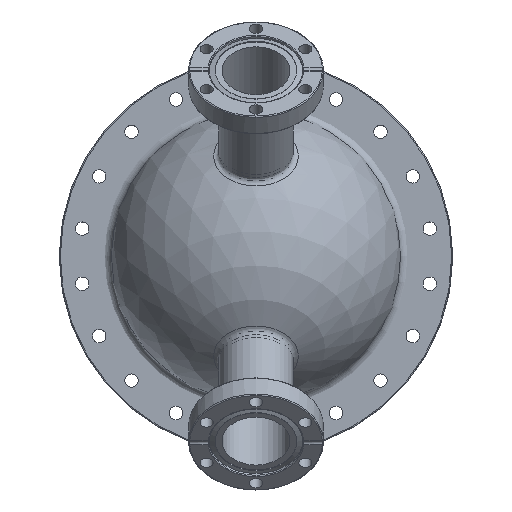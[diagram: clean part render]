
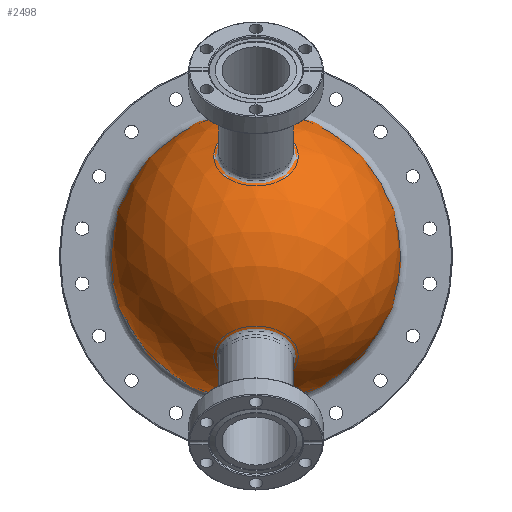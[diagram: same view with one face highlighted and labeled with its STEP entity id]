
A CAD part, top view. The second image highlights one B-rep face of the part: STEP entity #2498.
In plain terms, the highlighted spherical face has radius 76.2 mm.
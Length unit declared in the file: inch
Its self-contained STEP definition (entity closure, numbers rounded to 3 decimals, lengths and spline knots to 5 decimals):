
#63=SPHERICAL_SURFACE('',#2848,3.);
#139=FACE_BOUND('',#596,.T.);
#365=FACE_OUTER_BOUND('',#595,.T.);
#595=EDGE_LOOP('',(#2195,#2196,#2197,#2198,#2199));
#596=EDGE_LOOP('',(#2200));
#992=CIRCLE('',#2849,0.75);
#993=CIRCLE('',#2850,3.);
#994=CIRCLE('',#2851,3.);
#995=CIRCLE('',#2852,0.75);
#996=CIRCLE('',#2853,0.75);
#1204=VERTEX_POINT('',#5508);
#1205=VERTEX_POINT('',#5509);
#1206=VERTEX_POINT('',#5511);
#1207=VERTEX_POINT('',#5515);
#1541=EDGE_CURVE('',#1204,#1205,#992,.T.);
#1542=EDGE_CURVE('',#1205,#1206,#993,.T.);
#1543=EDGE_CURVE('',#1206,#1206,#994,.T.);
#1544=EDGE_CURVE('',#1205,#1204,#995,.T.);
#1545=EDGE_CURVE('',#1207,#1207,#996,.T.);
#2195=ORIENTED_EDGE('',*,*,#1541,.T.);
#2196=ORIENTED_EDGE('',*,*,#1542,.T.);
#2197=ORIENTED_EDGE('',*,*,#1543,.F.);
#2198=ORIENTED_EDGE('',*,*,#1542,.F.);
#2199=ORIENTED_EDGE('',*,*,#1544,.T.);
#2200=ORIENTED_EDGE('',*,*,#1545,.T.);
#2498=ADVANCED_FACE('',(#365,#139),#63,.T.);
#2848=AXIS2_PLACEMENT_3D('',#5507,#3621,#3622);
#2849=AXIS2_PLACEMENT_3D('',#5510,#3623,#3624);
#2850=AXIS2_PLACEMENT_3D('',#5512,#3625,#3626);
#2851=AXIS2_PLACEMENT_3D('',#5513,#3627,#3628);
#2852=AXIS2_PLACEMENT_3D('',#5514,#3629,#3630);
#2853=AXIS2_PLACEMENT_3D('',#5516,#3631,#3632);
#3621=DIRECTION('center_axis',(0.,-0.707,
0.707));
#3622=DIRECTION('ref_axis',(1.,0.,0.));
#3623=DIRECTION('center_axis',(0.,0.707,-0.707));
#3624=DIRECTION('ref_axis',(-1.,0.,0.));
#3625=DIRECTION('center_axis',(0.,-0.707,
-0.707));
#3626=DIRECTION('ref_axis',(-1.,0.,0.));
#3627=DIRECTION('center_axis',(0.,0.,
-1.));
#3628=DIRECTION('ref_axis',(0.,-1.,0.));
#3629=DIRECTION('center_axis',(0.,0.707,-0.707));
#3630=DIRECTION('ref_axis',(-1.,0.,0.));
#3631=DIRECTION('center_axis',(0.,-0.707,
-0.707));
#3632=DIRECTION('ref_axis',(-1.,0.,0.));
#5507=CARTESIAN_POINT('Origin',(0.,-4.71,1.01067));
#5508=CARTESIAN_POINT('',(0.75,-6.76396,3.06463));
#5509=CARTESIAN_POINT('',(-0.75,-6.76396,3.06463));
#5510=CARTESIAN_POINT('Origin',(0.,-6.76396,
3.06463));
#5511=CARTESIAN_POINT('',(-2.99999,-4.70467,1.00533));
#5512=CARTESIAN_POINT('Origin',(0.,-4.71,1.01067));
#5513=CARTESIAN_POINT('Origin',(0.,-4.71,1.00533));
#5514=CARTESIAN_POINT('Origin',(0.,-6.76396,
3.06463));
#5515=CARTESIAN_POINT('',(0.75,-2.65604,3.06463));
#5516=CARTESIAN_POINT('Origin',(0.,-2.65604,
3.06463));
